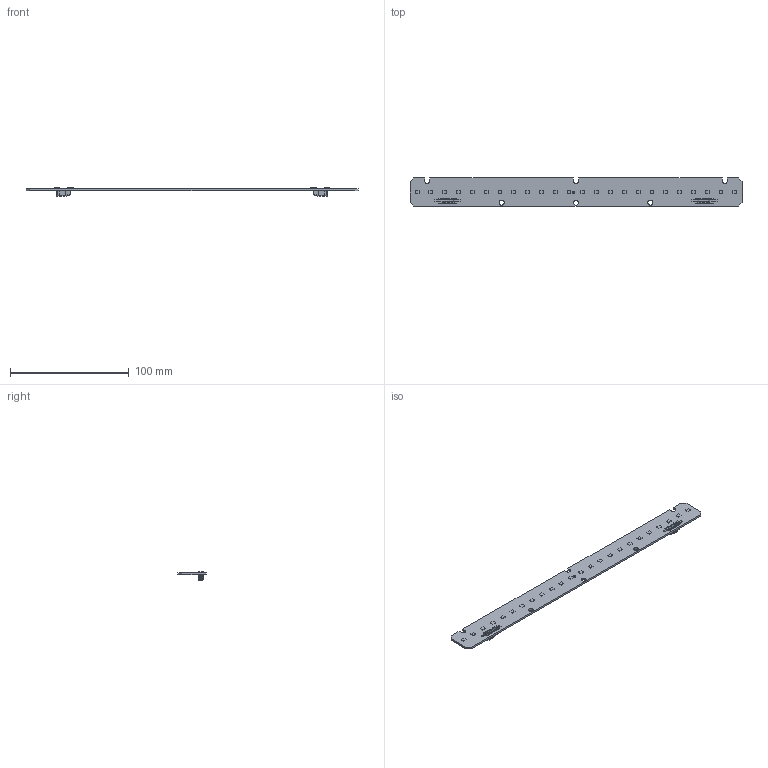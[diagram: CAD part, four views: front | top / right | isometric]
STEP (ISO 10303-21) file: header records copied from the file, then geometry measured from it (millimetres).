
FILE_DESCRIPTION((''),'2;1');
FILE_NAME('16208800_LLE5-24X280-1250LM-BT','2020-06-16T14:46:38',('bernhard.fink'),(''),'CREO PARAMETRIC BY PTC INC, 2019164','CREO PARAMETRIC BY PTC INC, 2019164','');
FILE_SCHEMA(('CONFIG_CONTROL_DESIGN'));
Products named in the file (1): 16208800_LLE5-24X280-1250LM-BT
Bounding box: 279 x 23.6 x 7.4 mm (x, y, z)
Volume: 10601.6 mm3; surface area: 15693.1 mm2
Topology: 25 solids, 31 shells, 803 faces, 2196 edges, 1454 vertices
Faces by surface type: plane 584, cylinder 159, extrusion 44, cone 8, bspline 8
Entity records: 53503 total; most frequent: CARTESIAN_POINT 33430, ORIENTED_EDGE 4318, DIRECTION 3762, EDGE_CURVE 2192, VECTOR 1622, LINE 1578, VERTEX_POINT 1454, AXIS2_PLACEMENT_3D 1070
